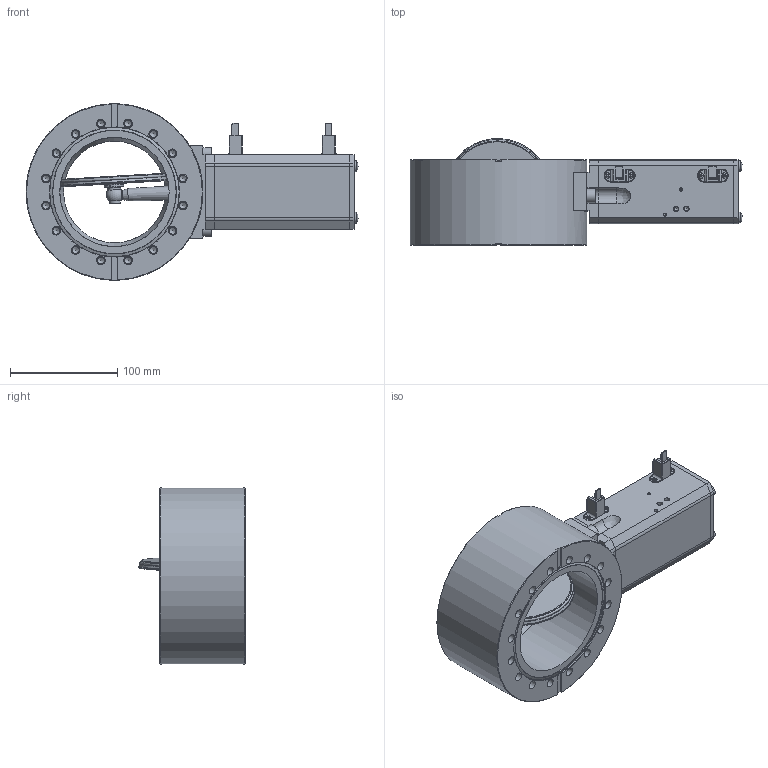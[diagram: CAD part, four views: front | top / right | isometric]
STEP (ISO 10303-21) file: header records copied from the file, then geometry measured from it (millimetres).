
FILE_DESCRIPTION(/* description */ (''),/* implementation_level */ '2;1');
FILE_NAME(/* name */ '1297819060_203.stp',/* time_stamp */ '2010-10-13T08:16:55+02:00',/* author */ (''),/* organization */ (''),/* preprocessor_version */ 'ST-DEVELOPER v11',/* originating_system */ 'SIEMENS UGS NX 6.0',/* authorisation */ '');
FILE_SCHEMA (('CONFIG_CONTROL_DESIGN'));
Length unit declared in the file: millimetre
Products named in the file (26): N-6089-308.1; 372421; 227430.1; N-8409-200.3; 92571-01.2; 365072; 372221; 227328.2; 227452.1; N-6024-515.1; 227450.1; 224374.6; 233106.4; 224315.3; 224223.6; 233137.1; N-6005-474.1; 225582.1; 244915.1; 224828.2; N-6013-443.2; 372418_MODEL; 372415_NX-ARRAGMNTZUSAMMENST1; 227117.3; 226699_NX-ARRAGMNTZUSAMMENST1; 373883
Assembly tree (34 placements, depth 4):
  373883
    N-6013-443.2  x4
    224828.2  x2
    244915.1
    225582.1  x4
    N-6005-474.1
    233137.1
    224223.6
    224315.3
    233106.4
    224374.6
    226699_NX-ARRAGMNTZUSAMMENST1  x2
      227450.1
      N-6024-515.1
      227452.1
      227328.2
      227117.3
        92571-01.2
        N-8409-200.3
        227430.1
    372415_NX-ARRAGMNTZUSAMMENST1
      372418_MODEL
        372421
        N-6089-308.1
      372221
      365072
Bounding box: 309.7 x 99.57 x 164.99 mm (x, y, z)
Volume: 1427417.3 mm3; surface area: 255696.4 mm2
Topology: 43 solids, 43 shells, 1261 faces, 3092 edges, 2014 vertices
Faces by surface type: plane 719, cylinder 369, cone 111, bspline 29, sphere 17, torus 16
Full cylindrical faces by diameter (mm): 0.4 x4, 0.6 x4, 1.1 x4, 1.2 x2, 2 x6, 2.2 x4, 2.5 x10, 2.7 x2, 2.9 x4, 3 x2, 3.2 x2, 3.3 x4, 4 x11, 4.4 x12, 4.96 x1, 5 x19, 5.006 x1, 5.4 x8, 6 x3, 6.3 x1, 6.4 x34, 6.66 x2, 6.7 x2, 6.9 x1, 7.008 x1, 7.3 x2, 7.5 x4, 8 x40, 8.2 x2, 9.95 x1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
Entity records: 27732 total; most frequent: CARTESIAN_POINT 5344, DIRECTION 4066, ORIENTED_EDGE 3414, EDGE_CURVE 1707, AXIS2_PLACEMENT_3D 1592, EDGE_LOOP 1344, VERTEX_POINT 1329, FACE_BOUND 957
